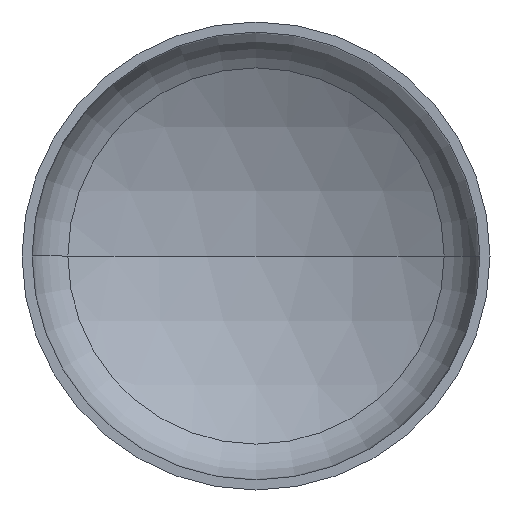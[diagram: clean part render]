
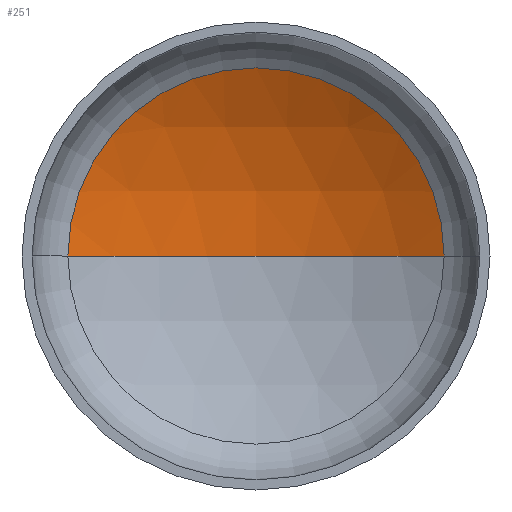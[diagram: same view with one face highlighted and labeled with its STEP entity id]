
A CAD part, front view. The second image highlights one B-rep face of the part: STEP entity #251.
In plain terms, the highlighted spherical face has radius 3200 mm.
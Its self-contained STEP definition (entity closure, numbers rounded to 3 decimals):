
#3 = CARTESIAN_POINT ( 'NONE',  ( 0., -2134.91, 0. ) ) ;
#8 = CARTESIAN_POINT ( 'NONE',  ( 0., -2134.91, 0. ) ) ;
#23 = AXIS2_PLACEMENT_3D ( 'NONE', #39, #190, #74 ) ;
#25 = AXIS2_PLACEMENT_3D ( 'NONE', #8, #269, #122 ) ;
#27 = EDGE_LOOP ( 'NONE', ( #381, #109, #103 ) ) ;
#28 = VERTEX_POINT ( 'NONE', #369 ) ;
#30 = AXIS2_PLACEMENT_3D ( 'NONE', #3, #393, #169 ) ;
#34 = AXIS2_PLACEMENT_3D ( 'NONE', #202, #203, #152 ) ;
#39 = CARTESIAN_POINT ( 'NONE',  ( 0., -2134.91, 0. ) ) ;
#74 = DIRECTION ( 'NONE',  ( -1., 0., 0. ) ) ;
#79 = VERTEX_POINT ( 'NONE', #285 ) ;
#94 = EDGE_CURVE ( 'NONE', #128, #28, #241, .T. ) ;
#97 = EDGE_CURVE ( 'NONE', #79, #128, #411, .T. ) ;
#98 = EDGE_CURVE ( 'NONE', #79, #28, #282, .T. ) ;
#103 = ORIENTED_EDGE ( 'NONE', *, *, #94, .T. ) ;
#109 = ORIENTED_EDGE ( 'NONE', *, *, #97, .T. ) ;
#122 = DIRECTION ( 'NONE',  ( 1., 0., 0. ) ) ;
#128 = VERTEX_POINT ( 'NONE', #200 ) ;
#152 = DIRECTION ( 'NONE',  ( 1., 0., 0. ) ) ;
#169 = DIRECTION ( 'NONE',  ( -1., 0., 0. ) ) ;
#190 = DIRECTION ( 'NONE',  ( 0., 0., -1. ) ) ;
#200 = CARTESIAN_POINT ( 'NONE',  ( 1608.046, 631.71, 0. ) ) ;
#202 = CARTESIAN_POINT ( 'NONE',  ( 0., 631.71, 0. ) ) ;
#203 = DIRECTION ( 'NONE',  ( 0., -1., 0. ) ) ;
#241 = CIRCLE ( 'NONE', #34, 1608.046 ) ;
#251 = ADVANCED_FACE ( 'NONE', ( #270 ), #358, .F. ) ;
#269 = DIRECTION ( 'NONE',  ( 0., 0., 1. ) ) ;
#270 = FACE_OUTER_BOUND ( 'NONE', #27, .T. ) ;
#282 = CIRCLE ( 'NONE', #25, 3200. ) ;
#285 = CARTESIAN_POINT ( 'NONE',  ( 0., 1065.09, 0. ) ) ;
#358 = SPHERICAL_SURFACE ( 'NONE', #23, 3200. ) ;
#369 = CARTESIAN_POINT ( 'NONE',  ( -1608.046, 631.71, 0. ) ) ;
#381 = ORIENTED_EDGE ( 'NONE', *, *, #98, .F. ) ;
#393 = DIRECTION ( 'NONE',  ( 0., 0., -1. ) ) ;
#411 = CIRCLE ( 'NONE', #30, 3200. ) ;
